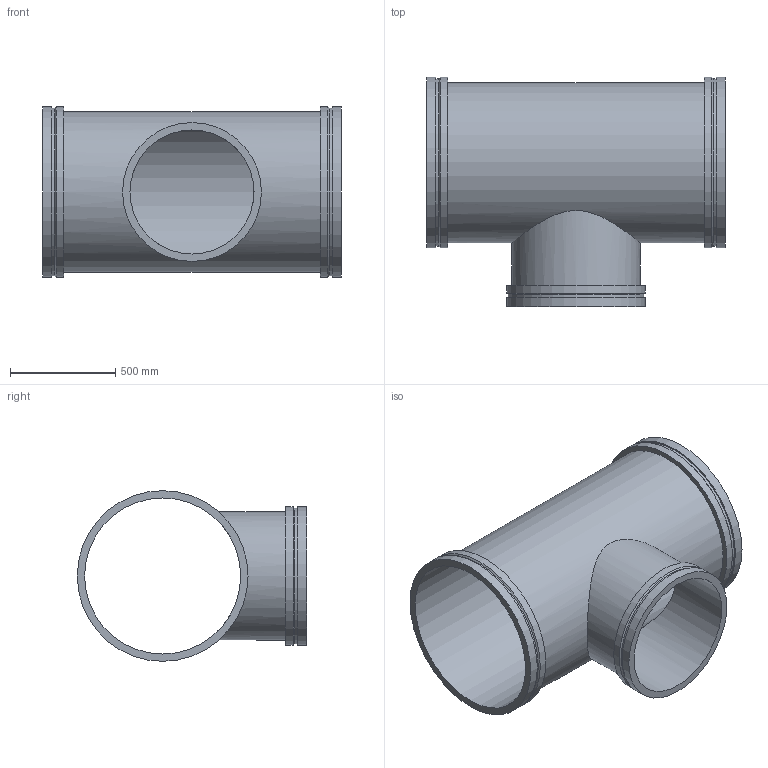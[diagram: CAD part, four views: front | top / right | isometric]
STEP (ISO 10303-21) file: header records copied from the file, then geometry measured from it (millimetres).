
FILE_DESCRIPTION(/* description */ ('VIC REDUCING TEE No W025 VR','CAx-IF Rec.Pracs.---Representation and Presentation of Product Manufacturing Information (PMI)---4.0---2014-10-13'),/* implementation_level */ '2;1');
FILE_NAME(/* name */ 'C:\Users\kkamble\AppData\Roaming\Autodesk\ApplicationPlugins\Back Up\Victaulic_Vic-Ring_Tee Reducing_No W25 VR (AGR)\Victaulic_Vic-Ring_Tee Reducing_No W25 VR (AGR)_30.0x24.0 (750x600).stp',/* time_stamp */ '2020-09-10T11:54:22+05:00',/* author */ ('mchristi'),/* organization */ ('Victaulic'),/* preprocessor_version */ 'ST-DEVELOPER v17.2',/* originating_system */ 'Autodesk Inventor 2019',/* authorisation */ '');
FILE_SCHEMA (('AP242_MANAGED_MODEL_BASED_3D_ENGINEERING_MIM_LF { 1 0 10303 442 1 1 4 }'));
Length unit declared in the file: inch
Products named in the file (1): W25 VR-30.0x24.0
Bounding box: 1422.4 x 1092.2 x 812.8 mm (x, y, z)
Volume: 52942257.4 mm3; surface area: 8065997.5 mm2
Topology: 1 solids, 1 shells, 25 faces, 68 edges, 52 vertices
Faces by surface type: cylinder 13, plane 9, cone 3
Full cylindrical faces by diameter (mm): 590.55 x1, 609.6 x1, 645.922 x1, 660.4 x2, 742.95 x1, 762 x1, 798.322 x2, 812.8 x4
Entity records: 1243 total; most frequent: CARTESIAN_POINT 399, DIRECTION 190, ORIENTED_EDGE 136, AXIS2_PLACEMENT_3D 87, EDGE_CURVE 68, VERTEX_POINT 52, CIRCLE 48, EDGE_LOOP 36
